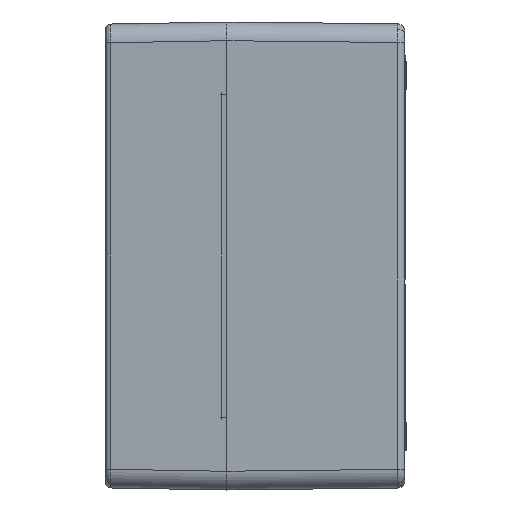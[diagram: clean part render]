
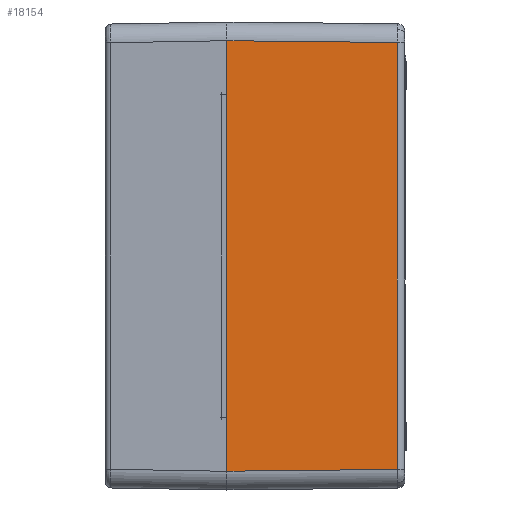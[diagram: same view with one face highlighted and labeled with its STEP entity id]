
A CAD part, left-side view. The second image highlights one B-rep face of the part: STEP entity #18154.
In plain terms, the highlighted planar face has unit normal (-1, -0.011, 0).
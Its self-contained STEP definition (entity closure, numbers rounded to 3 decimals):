
#774 = ORIENTED_EDGE ( 'NONE', *, *, #53328, .T. ) ;
#1880 = EDGE_LOOP ( 'NONE', ( #37396, #774, #42530, #45156 ) ) ;
#3352 = DIRECTION ( 'NONE',  ( 0.01, -1., -0.01 ) ) ;
#6360 = VECTOR ( 'NONE', #35411, 1000. ) ;
#6898 = AXIS2_PLACEMENT_3D ( 'NONE', #36828, #28176, #54173 ) ;
#11154 = LINE ( 'NONE', #26357, #6360 ) ;
#13652 = LINE ( 'NONE', #51476, #23993 ) ;
#13717 = EDGE_CURVE ( 'NONE', #21246, #42975, #13652, .T. ) ;
#18154 = ADVANCED_FACE ( 'NONE', ( #36873 ), #28545, .T. ) ;
#19114 = CARTESIAN_POINT ( 'NONE',  ( -299.02, -91.542, 114.021 ) ) ;
#21074 = CARTESIAN_POINT ( 'NONE',  ( -299.02, -91.542, -114.021 ) ) ;
#21246 = VERTEX_POINT ( 'NONE', #24842 ) ;
#21314 = EDGE_CURVE ( 'NONE', #47285, #42975, #11154, .T. ) ;
#23993 = VECTOR ( 'NONE', #25659, 1000. ) ;
#24101 = VECTOR ( 'NONE', #48928, 1000. ) ;
#24842 = CARTESIAN_POINT ( 'NONE',  ( -299.974, -0.5, -114.974 ) ) ;
#25659 = DIRECTION ( 'NONE',  ( 0.01, -1., 0.01 ) ) ;
#25800 = EDGE_CURVE ( 'NONE', #53248, #47285, #53446, .T. ) ;
#26357 = CARTESIAN_POINT ( 'NONE',  ( -299.02, -91.542, -125. ) ) ;
#28176 = DIRECTION ( 'NONE',  ( -1., -0.01, 0. ) ) ;
#28545 = PLANE ( 'NONE',  #6898 ) ;
#34309 = CARTESIAN_POINT ( 'NONE',  ( -299.974, -0.5, -125. ) ) ;
#35411 = DIRECTION ( 'NONE',  ( 0., 0., -1. ) ) ;
#36828 = CARTESIAN_POINT ( 'NONE',  ( -300., 2., -125. ) ) ;
#36873 = FACE_OUTER_BOUND ( 'NONE', #1880, .T. ) ;
#37396 = ORIENTED_EDGE ( 'NONE', *, *, #25800, .F. ) ;
#42530 = ORIENTED_EDGE ( 'NONE', *, *, #13717, .T. ) ;
#42975 = VERTEX_POINT ( 'NONE', #21074 ) ;
#45156 = ORIENTED_EDGE ( 'NONE', *, *, #21314, .F. ) ;
#46423 = CARTESIAN_POINT ( 'NONE',  ( -299.974, -0.5, 114.974 ) ) ;
#47241 = VECTOR ( 'NONE', #3352, 1000. ) ;
#47285 = VERTEX_POINT ( 'NONE', #19114 ) ;
#48928 = DIRECTION ( 'NONE',  ( 0., 0., -1. ) ) ;
#51476 = CARTESIAN_POINT ( 'NONE',  ( -299.974, -0.5, -114.974 ) ) ;
#53248 = VERTEX_POINT ( 'NONE', #46423 ) ;
#53328 = EDGE_CURVE ( 'NONE', #53248, #21246, #53733, .T. ) ;
#53446 = LINE ( 'NONE', #55743, #47241 ) ;
#53733 = LINE ( 'NONE', #34309, #24101 ) ;
#54173 = DIRECTION ( 'NONE',  ( 0.01, -1., 0. ) ) ;
#55743 = CARTESIAN_POINT ( 'NONE',  ( -299.974, -0.513, 114.974 ) ) ;
